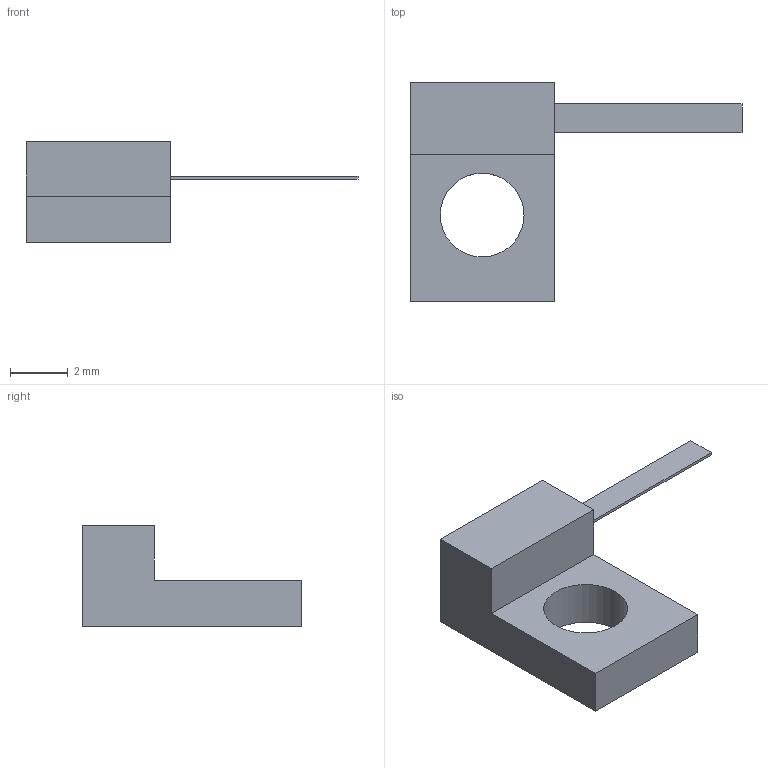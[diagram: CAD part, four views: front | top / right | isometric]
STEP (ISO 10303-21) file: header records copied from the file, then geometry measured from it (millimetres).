
FILE_DESCRIPTION(('STEP AP203'), '1');
FILE_NAME('P1-170-20-03', '', ('UNSPECIFIED'), ('UNSPECIFIED'), 'ASCON STEP Converter 1.6', 'ASCON Math Kernel', '');
FILE_SCHEMA(('CONFIG_CONTROL_DESIGN'));
Length unit declared in the file: millimetre
Bounding box: 11.5 x 7.6 x 3.5 mm (x, y, z)
Volume: 74.6 mm3; surface area: 160.5 mm2
Topology: 1 solids, 1 shells, 14 faces, 33 edges, 22 vertices
Faces by surface type: plane 13, cylinder 1
Full cylindrical faces by diameter (mm): 2.9 x1
Entity records: 554 total; most frequent: CARTESIAN_POINT 69, DIRECTION 64, ORIENTED_EDGE 64, EDGE_CURVE 32, LINE 30, VECTOR 30, VERTEX_POINT 22, EDGE_LOOP 18
